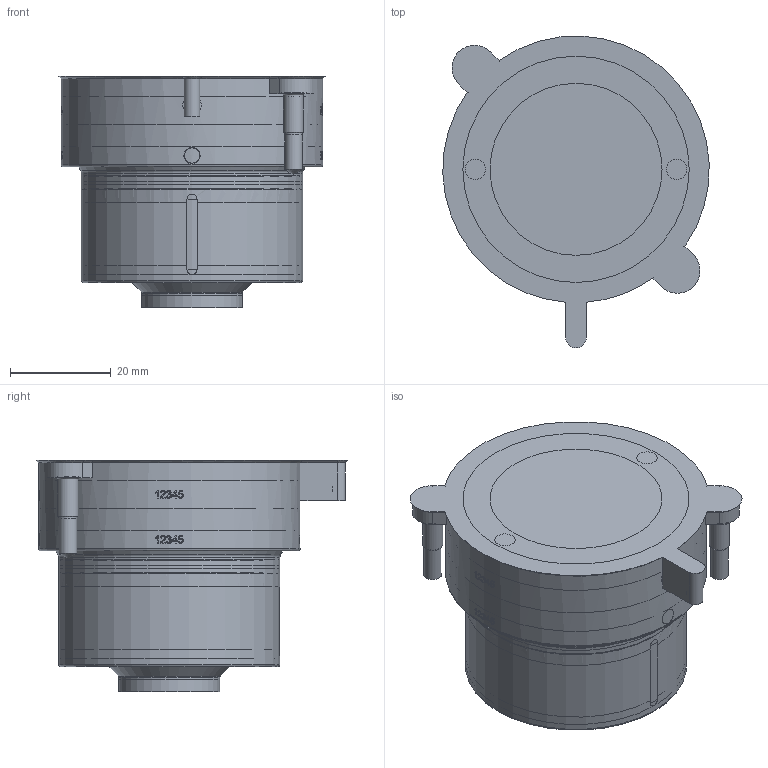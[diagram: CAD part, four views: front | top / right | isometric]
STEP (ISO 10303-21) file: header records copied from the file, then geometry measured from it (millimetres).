
FILE_DESCRIPTION(/* description */ (''),/* implementation_level */ '2;1');
FILE_NAME(/* name */ '83-004-019_CoolingInsertAssemblyTT-IT-OTX19-46.stp',/* time_stamp */ '2021-09-22T14:06:04+12:00',/* author */ (''),/* organization */ (''),/* preprocessor_version */ 'ST-DEVELOPER v16.7',/* originating_system */ 'SIEMENS PLM Software NX 12.0',/* authorisation */ '');
FILE_SCHEMA (('AP203_CONFIGURATION_CONTROLLED_3D_DESIGN_OF_MECHANICAL_PARTS_AND_ASSEMBLIES_MIM_LF { 1 0 10303 403 2 1 2}'));
Length unit declared in the file: millimetre
Products named in the file (1): Matt09681A55sydt
Bounding box: 52.96 x 61.97 x 46 mm (x, y, z)
Volume: 111886.6 mm3; surface area: 31810.7 mm2
Topology: 12 solids, 12 shells, 647 faces, 1595 edges, 1044 vertices
Faces by surface type: plane 277, cylinder 225, extrusion 60, cone 41, torus 31, revolution 8, bspline 5
Full cylindrical faces by diameter (mm): 0.421 x2, 1.2 x1, 3 x3, 3.02 x4, 3.05 x2, 3.5 x2, 4 x2, 7.6 x2, 15.01 x1, 19.795 x1, 19.995 x1, 20.01 x1, 29.2 x2, 33 x1, 33.2 x1, 34.4 x2, 40.7 x1, 40.8 x1, 43.8 x1, 43.94 x2, 44 x2, 46 x2, 51.8 x2, 52 x1
Entity records: 27108 total; most frequent: CARTESIAN_POINT 12425, ORIENTED_EDGE 2868, DIRECTION 2650, EDGE_CURVE 1434, VERTEX_POINT 1007, AXIS2_PLACEMENT_3D 966, EDGE_LOOP 845, VECTOR 710
